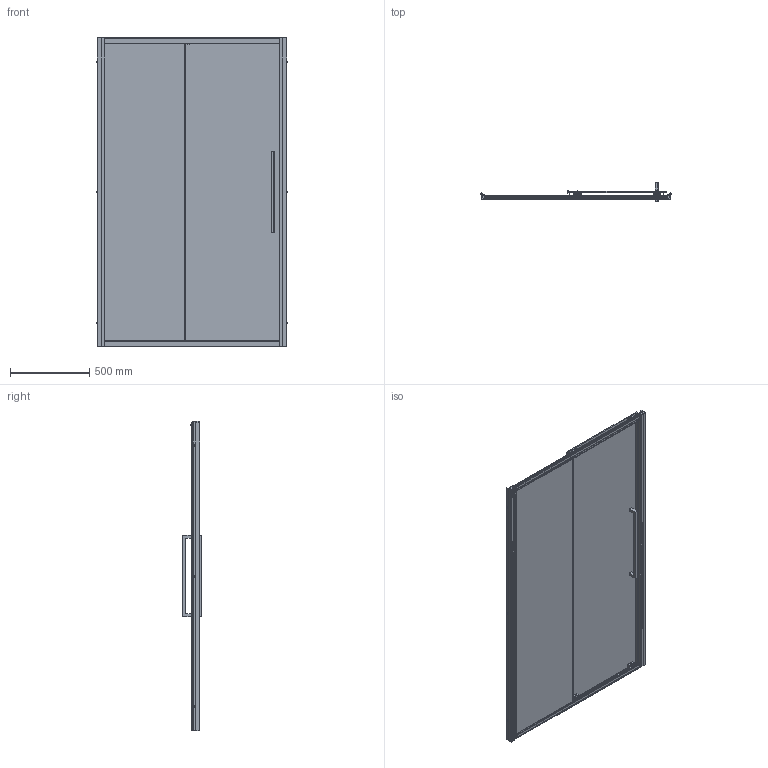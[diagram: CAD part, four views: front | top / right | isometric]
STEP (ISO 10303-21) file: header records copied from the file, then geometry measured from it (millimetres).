
FILE_DESCRIPTION((''),'2;1');
FILE_NAME('00-S617011_ASM','2022-06-07T16:21:28',('M'),(''),'CREO PARAMETRIC BY PTC INC, 2017110','CREO PARAMETRIC BY PTC INC, 2017110','');
FILE_SCHEMA(('CONFIG_CONTROL_DESIGN'));
Length unit declared in the file: millimetre
Products named in the file (32): 00; DBT_ST4X20; YTZG_ST4X10; 28Z05-1-; 28Z05-2-; 001_ASM; 003; 0005; 000; _0003; 0020; _AF_ASM; _0004; 0021; _A_ASM; 10001; 0031_ASM; 0025; 0040; 0039_ASM; 0035; 1-N000; _N1000; 0027; 00-S617011_ASM
Assembly tree (62 placements, depth 4):
  00-S617011_ASM
    001_ASM
      00
      00
      DBT_ST4X20  x4
      001_ASM  x6
        YTZG_ST4X10
        28Z05-1-
        28Z05-2-
    00
    003
    0005
    0031_ASM
      000
      _AF_ASM
        _0003
        00
        0020
      _AF_ASM
        _0003
        00
        0020
      _A_ASM
        _0004
        0021
        00
      _A_ASM
        _0004
        0021
        00
      10001
      00
    0025
    0039_ASM
      00
      00
      001_ASM  x6
        YTZG_ST4X10
        28Z05-1-
        28Z05-2-
      0040
      DBT_ST4X20  x4
    0035  x2
    1-N000  x2
    _N1000  x2
    0027  x2
Bounding box: 1212.4 x 118 x 1953 mm (x, y, z)
Volume: 24168351 mm3; surface area: 6736083.8 mm2
Topology: 76 solids, 76 shells, 2551 faces, 6231 edges, 3850 vertices
Faces by surface type: cylinder 1000, plane 811, bspline 340, torus 188, cone 124, sphere 88
Entity records: 32099 total; most frequent: CARTESIAN_POINT 13110, DIRECTION 3998, ORIENTED_EDGE 3726, EDGE_CURVE 1863, AXIS2_PLACEMENT_3D 1463, VERTEX_POINT 1194, VECTOR 1072, LINE 1072
